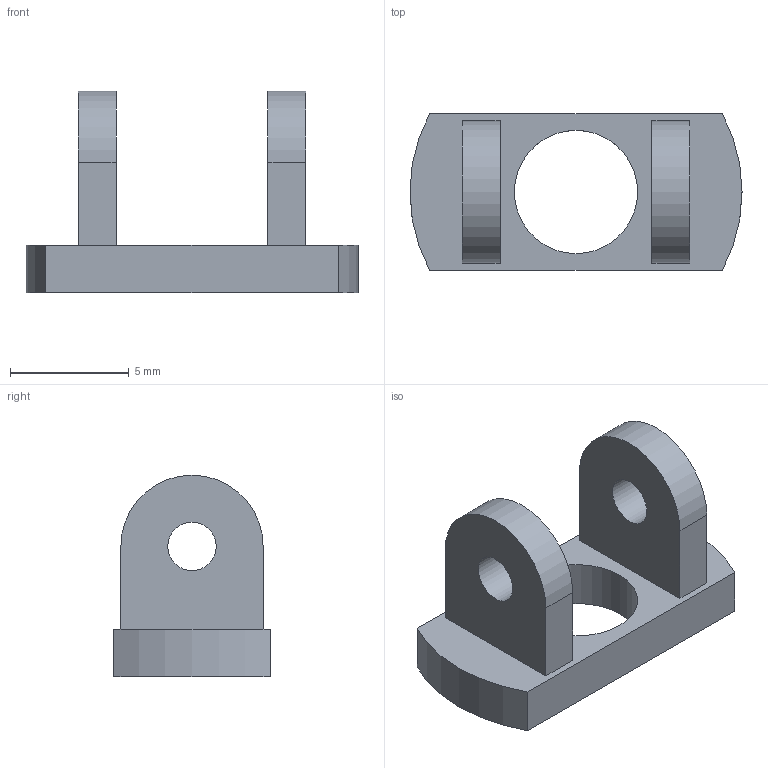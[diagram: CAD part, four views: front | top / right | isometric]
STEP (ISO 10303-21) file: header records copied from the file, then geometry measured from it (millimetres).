
FILE_DESCRIPTION(('Open CASCADE Model'),'2;1');
FILE_NAME('Open CASCADE Shape Model','2026-10-23T00:29:41',('Author'),( 'Open CASCADE'),'Open CASCADE STEP processor 7.9','Open CASCADE 7.9' ,'Unknown');
FILE_SCHEMA(('AUTOMOTIVE_DESIGN { 1 0 10303 214 1 1 1 1 }'));
Length unit declared in the file: millimetre
Products named in the file (1): Open CASCADE STEP translator 7.9 2
Bounding box: 14 x 6.6 x 8.5 mm (x, y, z)
Volume: 237.2 mm3; surface area: 426.1 mm2
Topology: 1 solids, 1 shells, 19 faces, 45 edges, 30 vertices
Faces by surface type: plane 12, cylinder 7
Full cylindrical faces by diameter (mm): 2.04 x2, 5.2 x1
Entity records: 1154 total; most frequent: CARTESIAN_POINT 227, DIRECTION 167, ORIENTED_EDGE 90, PCURVE 90, DEFINITIONAL_REPRESENTATION 90, LINE 89, VECTOR 89, EDGE_CURVE 45
